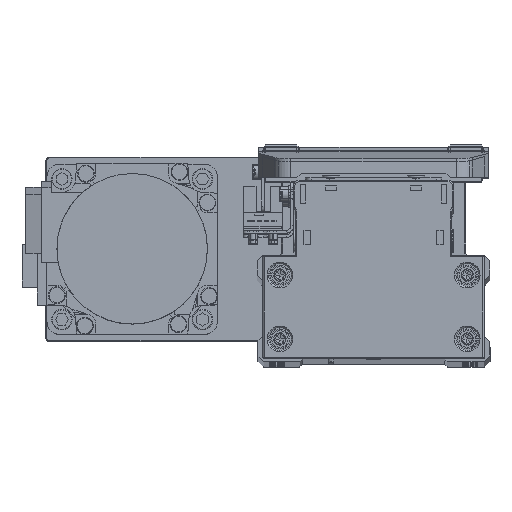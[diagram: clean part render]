
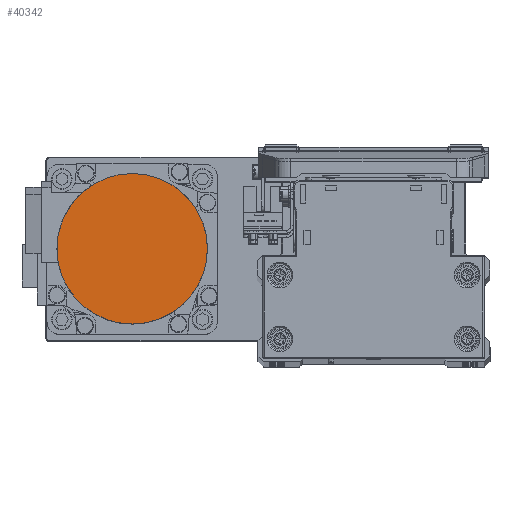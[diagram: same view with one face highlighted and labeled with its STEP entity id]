
A CAD part, top view. The second image highlights one B-rep face of the part: STEP entity #40342.
In plain terms, the highlighted planar face has unit normal (0, 0, 1) as drawn and (0, 0, -1) by its records, which use the part's own axes.
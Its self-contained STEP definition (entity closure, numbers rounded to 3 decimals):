
#511 = CARTESIAN_POINT ( 'NONE',  ( 0., 0., -109.7 ) ) ;
#2640 = DIRECTION ( 'NONE',  ( 0., 0., 1. ) ) ;
#4813 = DIRECTION ( 'NONE',  ( -1., 0., 0. ) ) ;
#5793 = FACE_OUTER_BOUND ( 'NONE', #25642, .T. ) ;
#11775 = EDGE_CURVE ( 'NONE', #33655, #31042, #33639, .T. ) ;
#12185 = AXIS2_PLACEMENT_3D ( 'NONE', #31375, #2640, #15459 ) ;
#13320 = DIRECTION ( 'NONE',  ( 0., 0., 1. ) ) ;
#15459 = DIRECTION ( 'NONE',  ( 1., 0., 0. ) ) ;
#15520 = CIRCLE ( 'NONE', #38944, 26.5 ) ;
#15576 = AXIS2_PLACEMENT_3D ( 'NONE', #20770, #33557, #4813 ) ;
#17786 = CARTESIAN_POINT ( 'NONE',  ( 26.5, 0., -109.7 ) ) ;
#18596 = PLANE ( 'NONE',  #12185 ) ;
#20770 = CARTESIAN_POINT ( 'NONE',  ( 0., 0., -109.7 ) ) ;
#21508 = ORIENTED_EDGE ( 'NONE', *, *, #30141, .F. ) ;
#25642 = EDGE_LOOP ( 'NONE', ( #33903, #21508 ) ) ;
#26068 = DIRECTION ( 'NONE',  ( 1., 0., 0. ) ) ;
#30141 = EDGE_CURVE ( 'NONE', #31042, #33655, #15520, .T. ) ;
#31042 = VERTEX_POINT ( 'NONE', #17786 ) ;
#31375 = CARTESIAN_POINT ( 'NONE',  ( 0., 0., -109.7 ) ) ;
#33557 = DIRECTION ( 'NONE',  ( 0., 0., 1. ) ) ;
#33639 = CIRCLE ( 'NONE', #15576, 26.5 ) ;
#33655 = VERTEX_POINT ( 'NONE', #34757 ) ;
#33903 = ORIENTED_EDGE ( 'NONE', *, *, #11775, .F. ) ;
#34757 = CARTESIAN_POINT ( 'NONE',  ( -26.5, 0., -109.7 ) ) ;
#38944 = AXIS2_PLACEMENT_3D ( 'NONE', #511, #13320, #26068 ) ;
#40342 = ADVANCED_FACE ( 'NONE', ( #5793 ), #18596, .F. ) ;
